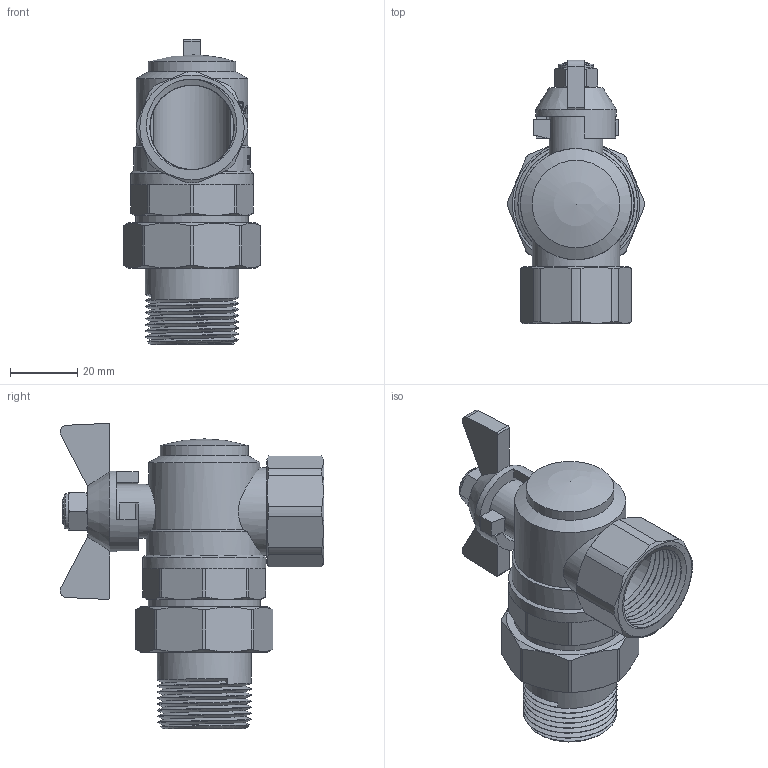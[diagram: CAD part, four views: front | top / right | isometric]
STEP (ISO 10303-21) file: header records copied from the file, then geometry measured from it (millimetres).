
FILE_DESCRIPTION(/* description */ (''),/* implementation_level */ '2;1');
FILE_NAME(/* name */ 'H:\Мишенин_3D\Исходные файлы 3D\VT.228.N.05.stp',/* time_stamp */ '2018-01-16T09:21:33+03:00',/* author */ ('MisheninAL'),/* organization */ (''),/* preprocessor_version */ 'ST-DEVELOPER v16.13',/* originating_system */ 'Autodesk Inventor 2018',/* authorisation */ '');
FILE_SCHEMA (('AUTOMOTIVE_DESIGN { 1 0 10303 214 3 1 1 }'));
Length unit declared in the file: millimetre
Products named in the file (1): VT.228_ВН_3%4
Bounding box: 40.8 x 78.24 x 90.6 mm (x, y, z)
Volume: 49782 mm3; surface area: 26450.7 mm2
Topology: 1 solids, 1 shells, 307 faces, 820 edges, 538 vertices
Faces by surface type: plane 132, bspline 82, cylinder 76, cone 13, torus 3, sphere 1
Full cylindrical faces by diameter (mm): 8 x1, 10.392 x1, 16 x1, 23 x1, 23.982 x1, 25 x7, 26 x2, 27.847 x6, 33 x1, 33.246 x1, 34.5 x1, 36.5 x1
Entity records: 15892 total; most frequent: CARTESIAN_POINT 9283, ORIENTED_EDGE 1486, DIRECTION 1127, EDGE_CURVE 743, VERTEX_POINT 498, AXIS2_PLACEMENT_3D 396, EDGE_LOOP 347, LINE 335
